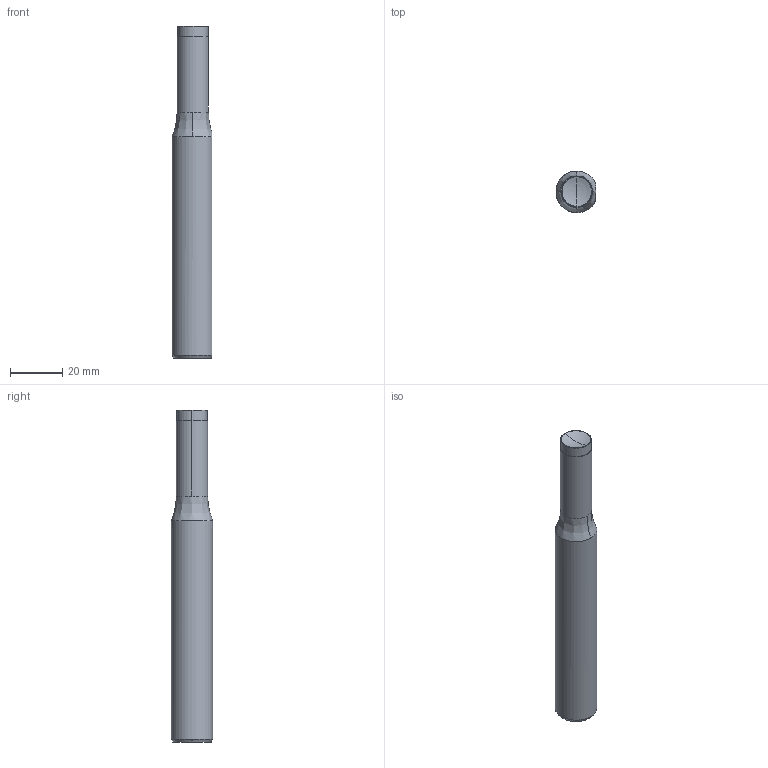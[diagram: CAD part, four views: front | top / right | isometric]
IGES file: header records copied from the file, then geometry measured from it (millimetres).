
Start section: SolidWorks IGES file using analytic representation for surfaces
Global section: file name: C:\Users\IanO\Desktop\SE0508_v2\SE0508_v2_20231218_IGES\SE0508.120-C.igs; native system: SolidWorks 2019; preprocessor: SolidWorks 2019; author: IanO; date: 231218.131357; units: millimetre
Bounding box: 15.27 x 15.88 x 127 mm (x, y, z)
Surface area: 6141.8 mm2 (no closed solid volume)
Topology: 0 solids, 0 shells, 15 faces, 238 edges, 238 vertices
Faces by surface type: revolution 9, bspline 6
